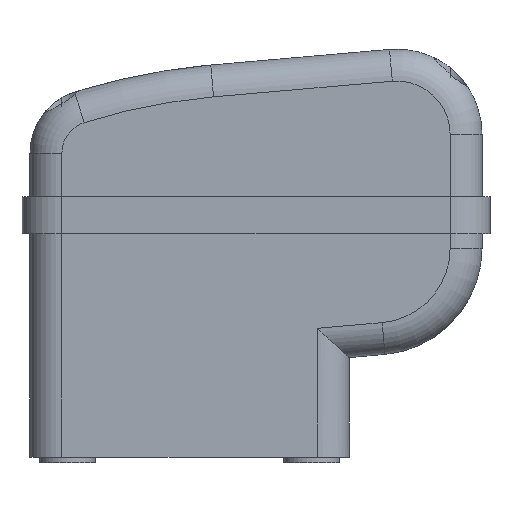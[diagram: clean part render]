
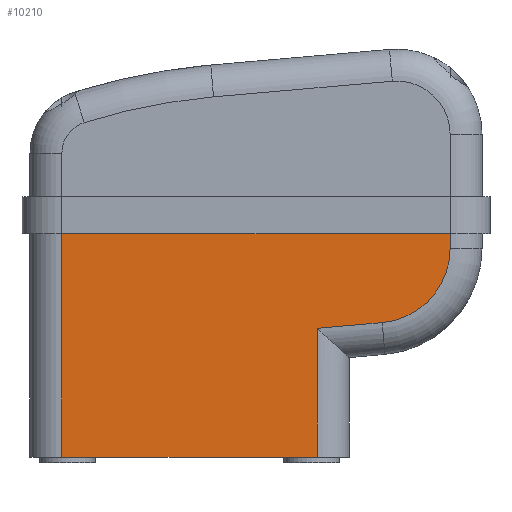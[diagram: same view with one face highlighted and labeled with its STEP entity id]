
A CAD part, front view. The second image highlights one B-rep face of the part: STEP entity #10210.
In plain terms, the highlighted planar face has unit normal (0, -1, 0).
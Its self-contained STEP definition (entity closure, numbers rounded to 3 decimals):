
#311 = EDGE_CURVE ( 'NONE', #8257, #375, #4715, .T. ) ;
#375 = VERTEX_POINT ( 'NONE', #3138 ) ;
#492 = CARTESIAN_POINT ( 'NONE',  ( 28.867, -80., 23.799 ) ) ;
#507 = CARTESIAN_POINT ( 'NONE',  ( 45., -80., 39.264 ) ) ;
#797 = EDGE_CURVE ( 'NONE', #13617, #17781, #14554, .T. ) ;
#803 = EDGE_CURVE ( 'NONE', #17781, #1458, #13167, .T. ) ;
#1458 = VERTEX_POINT ( 'NONE', #12655 ) ;
#1806 = LINE ( 'NONE', #16491, #10644 ) ;
#1884 = CARTESIAN_POINT ( 'NONE',  ( 34., -80., 19.899 ) ) ;
#2734 = EDGE_CURVE ( 'NONE', #13617, #375, #10368, .T. ) ;
#2912 = ORIENTED_EDGE ( 'NONE', *, *, #311, .T. ) ;
#3138 = CARTESIAN_POINT ( 'NONE',  ( -14., -80., 0. ) ) ;
#3490 = ORIENTED_EDGE ( 'NONE', *, *, #797, .T. ) ;
#3581 = EDGE_CURVE ( 'NONE', #8257, #15558, #1806, .T. ) ;
#3598 = ORIENTED_EDGE ( 'NONE', *, *, #2734, .F. ) ;
#3602 = EDGE_LOOP ( 'NONE', ( #3490, #15990, #3798, #14635, #4897, #2912, #3598 ) ) ;
#3798 = ORIENTED_EDGE ( 'NONE', *, *, #5477, .T. ) ;
#4148 = VECTOR ( 'NONE', #14330, 1000. ) ;
#4715 = LINE ( 'NONE', #10545, #4148 ) ;
#4799 = LINE ( 'NONE', #11723, #18236 ) ;
#4897 = ORIENTED_EDGE ( 'NONE', *, *, #3581, .F. ) ;
#5143 = EDGE_CURVE ( 'NONE', #18069, #15558, #4799, .T. ) ;
#5477 = EDGE_CURVE ( 'NONE', #1458, #18069, #15304, .T. ) ;
#5904 = VECTOR ( 'NONE', #6149, 1000. ) ;
#6149 = DIRECTION ( 'NONE',  ( 0.996, 0., 0.087 ) ) ;
#6164 = DIRECTION ( 'NONE',  ( 0., -1., 0. ) ) ;
#6855 = CARTESIAN_POINT ( 'NONE',  ( -14., -80., 44. ) ) ;
#7261 = DIRECTION ( 'NONE',  ( 0., 0., -1. ) ) ;
#7549 = DIRECTION ( 'NONE',  ( 0., 0., 1. ) ) ;
#7590 = CARTESIAN_POINT ( 'NONE',  ( -20., -80., 0. ) ) ;
#7643 = AXIS2_PLACEMENT_3D ( 'NONE', #507, #6164, #15690 ) ;
#7689 = DIRECTION ( 'NONE',  ( -1., 0., 0. ) ) ;
#7745 = DIRECTION ( 'NONE',  ( 1., 0., 0. ) ) ;
#8257 = VERTEX_POINT ( 'NONE', #6855 ) ;
#8442 = CARTESIAN_POINT ( 'NONE',  ( 59., -80., 44. ) ) ;
#8783 = VECTOR ( 'NONE', #7689, 1000. ) ;
#10210 = ADVANCED_FACE ( 'NONE', ( #12783 ), #12872, .T. ) ;
#10368 = LINE ( 'NONE', #7590, #8783 ) ;
#10545 = CARTESIAN_POINT ( 'NONE',  ( -14., -80., 0. ) ) ;
#10644 = VECTOR ( 'NONE', #7745, 1000. ) ;
#10782 = CARTESIAN_POINT ( 'NONE',  ( 59., -80., 39.264 ) ) ;
#11323 = CARTESIAN_POINT ( 'NONE',  ( 30., -80., 10.848 ) ) ;
#11504 = DIRECTION ( 'NONE',  ( 0., -1., 0. ) ) ;
#11723 = CARTESIAN_POINT ( 'NONE',  ( 59., -80., 44. ) ) ;
#12655 = CARTESIAN_POINT ( 'NONE',  ( 46.22, -80., 25.317 ) ) ;
#12783 = FACE_OUTER_BOUND ( 'NONE', #3602, .T. ) ;
#12872 = PLANE ( 'NONE',  #15198 ) ;
#13167 = LINE ( 'NONE', #492, #5904 ) ;
#13617 = VERTEX_POINT ( 'NONE', #17154 ) ;
#13757 = DIRECTION ( 'NONE',  ( 0., 0., 1. ) ) ;
#14088 = CARTESIAN_POINT ( 'NONE',  ( 34., -80., 24.248 ) ) ;
#14330 = DIRECTION ( 'NONE',  ( 0., 0., -1. ) ) ;
#14554 = LINE ( 'NONE', #1884, #18044 ) ;
#14635 = ORIENTED_EDGE ( 'NONE', *, *, #5143, .T. ) ;
#15198 = AXIS2_PLACEMENT_3D ( 'NONE', #11323, #11504, #7261 ) ;
#15304 = CIRCLE ( 'NONE', #7643, 14. ) ;
#15558 = VERTEX_POINT ( 'NONE', #8442 ) ;
#15690 = DIRECTION ( 'NONE',  ( 0., 0., -1. ) ) ;
#15990 = ORIENTED_EDGE ( 'NONE', *, *, #803, .T. ) ;
#16491 = CARTESIAN_POINT ( 'NONE',  ( 62., -80., 44. ) ) ;
#17154 = CARTESIAN_POINT ( 'NONE',  ( 34., -80., 0. ) ) ;
#17781 = VERTEX_POINT ( 'NONE', #14088 ) ;
#18044 = VECTOR ( 'NONE', #7549, 1000. ) ;
#18069 = VERTEX_POINT ( 'NONE', #10782 ) ;
#18236 = VECTOR ( 'NONE', #13757, 1000. ) ;
